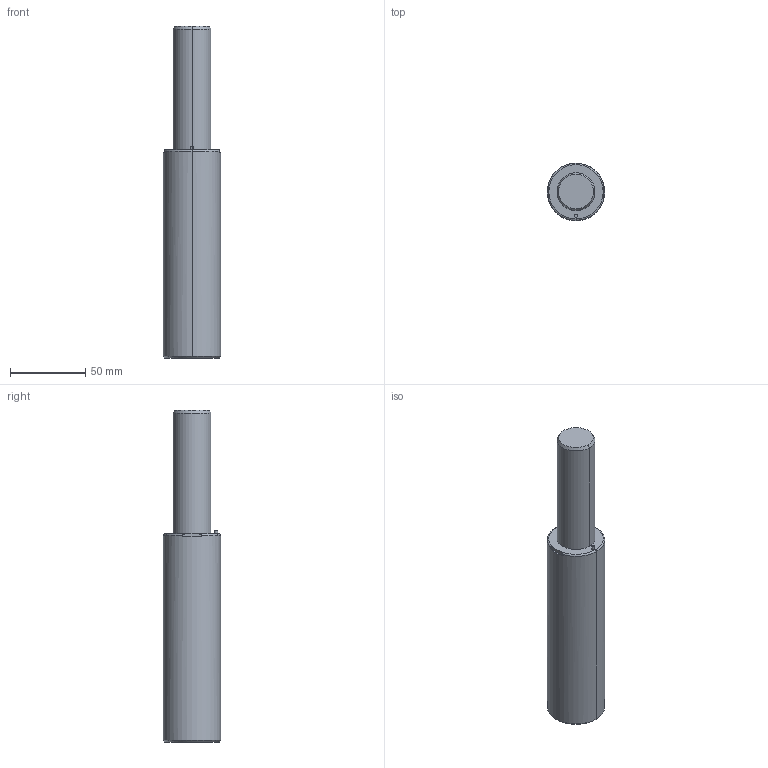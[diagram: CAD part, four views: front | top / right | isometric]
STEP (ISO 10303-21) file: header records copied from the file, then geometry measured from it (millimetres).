
FILE_DESCRIPTION(/* description */ (''),/* implementation_level */ '2;1');
FILE_NAME(/* name */ '3d_gsx38-80_03986_r00.stp',/* time_stamp */ '2011-01-10T14:15:13+09:00',/* author */ ('MISUMI'),/* organization */ (''),/* preprocessor_version */ 'ST-DEVELOPER v11',/* originating_system */ 'UGS - NX 5.0',/* authorisation */ '');
FILE_SCHEMA (('CONFIG_CONTROL_DESIGN'));
Length unit declared in the file: millimetre
Products named in the file (1): 3d_gsx38-80_03986_r00
Bounding box: 38 x 38 x 220 mm (x, y, z)
Volume: 194696.4 mm3; surface area: 26303.8 mm2
Topology: 1 solids, 1 shells, 59 faces, 128 edges, 76 vertices
Faces by surface type: cylinder 28, plane 15, cone 12, torus 4
Entity records: 1718 total; most frequent: CARTESIAN_POINT 328, DIRECTION 306, ORIENTED_EDGE 240, AXIS2_PLACEMENT_3D 130, EDGE_CURVE 120, VERTEX_POINT 76, EDGE_LOOP 72, CIRCLE 70
